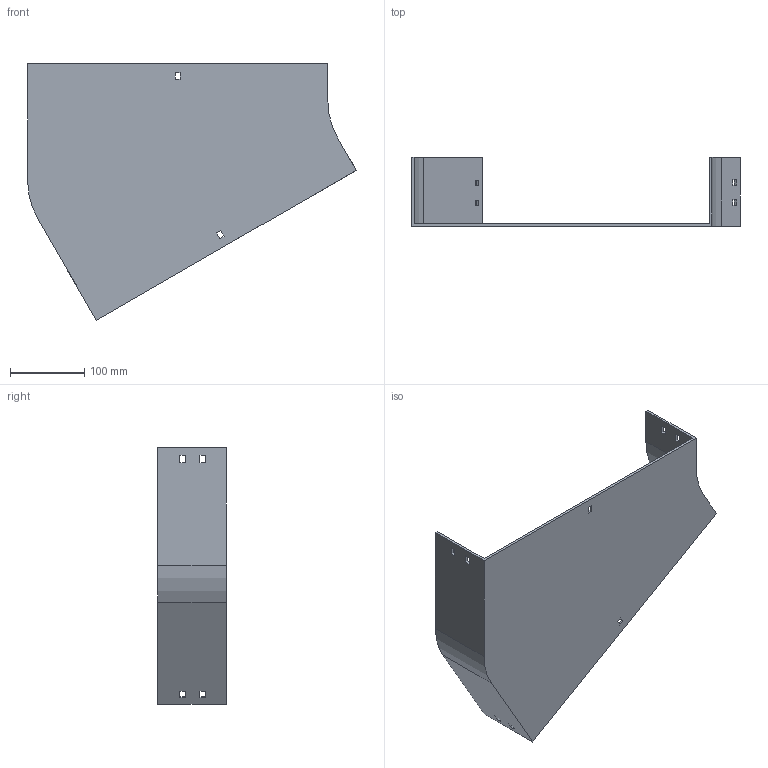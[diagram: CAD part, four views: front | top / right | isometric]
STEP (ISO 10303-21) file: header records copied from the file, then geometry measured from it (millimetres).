
FILE_DESCRIPTION (( 'STEP AP214' ), '1' );
FILE_NAME ('12B1I400.step', '2025-02-21T09:36:21', ( '' ), ( '' ), 'SwSTEP 2.0', 'SolidWorks 2023', '' );
FILE_SCHEMA (( 'AUTOMOTIVE_DESIGN' ));
Length unit declared in the file: millimetre
Products named in the file (1): 12B1I400
Bounding box: 442.4 x 92.5 x 345.3 mm (x, y, z)
Volume: 530235 mm3; surface area: 310058.7 mm2
Topology: 1 solids, 1 shells, 58 faces, 168 edges, 112 vertices
Faces by surface type: plane 54, cylinder 4
Entity records: 1943 total; most frequent: CARTESIAN_POINT 339, ORIENTED_EDGE 336, DIRECTION 294, EDGE_CURVE 168, LINE 160, VECTOR 160, VERTEX_POINT 112, EDGE_LOOP 78
